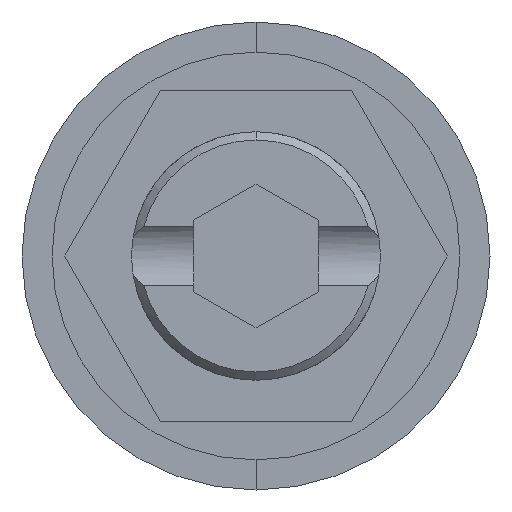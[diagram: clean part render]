
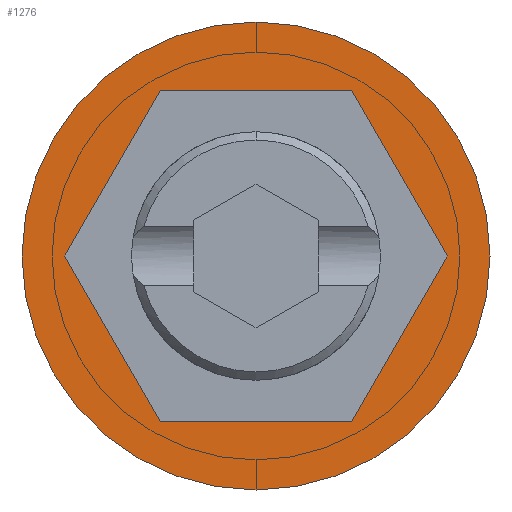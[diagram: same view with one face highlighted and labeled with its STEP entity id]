
A CAD part, front view. The second image highlights one B-rep face of the part: STEP entity #1276.
In plain terms, the highlighted planar face has unit normal (0, -1, 0).
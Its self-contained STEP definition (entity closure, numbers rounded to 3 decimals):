
#17 = EDGE_CURVE ( 'NONE', #1337, #1529, #1479, .T. ) ;
#31 = DIRECTION ( 'NONE',  ( 1., 0., 0. ) ) ;
#54 = CARTESIAN_POINT ( 'NONE',  ( 0., 0., -5.65 ) ) ;
#85 = FACE_BOUND ( 'NONE', #694, .T. ) ;
#97 = VECTOR ( 'NONE', #1817, 1000. ) ;
#116 = CARTESIAN_POINT ( 'NONE',  ( -2.309, 0., -4. ) ) ;
#156 = ORIENTED_EDGE ( 'NONE', *, *, #827, .F. ) ;
#223 = ORIENTED_EDGE ( 'NONE', *, *, #2057, .F. ) ;
#313 = ORIENTED_EDGE ( 'NONE', *, *, #1988, .T. ) ;
#324 = VECTOR ( 'NONE', #31, 1000. ) ;
#358 = VECTOR ( 'NONE', #1152, 1000. ) ;
#389 = VERTEX_POINT ( 'NONE', #1061 ) ;
#438 = LINE ( 'NONE', #1759, #1281 ) ;
#468 = ORIENTED_EDGE ( 'NONE', *, *, #1002, .F. ) ;
#487 = CARTESIAN_POINT ( 'NONE',  ( -2.309, 0., 4. ) ) ;
#590 = VERTEX_POINT ( 'NONE', #116 ) ;
#651 = EDGE_LOOP ( 'NONE', ( #1862, #313 ) ) ;
#679 = VECTOR ( 'NONE', #869, 1000. ) ;
#694 = EDGE_LOOP ( 'NONE', ( #223, #468, #1634, #987, #2116, #156 ) ) ;
#698 = DIRECTION ( 'NONE',  ( 0., -1., 0. ) ) ;
#721 = VERTEX_POINT ( 'NONE', #1781 ) ;
#769 = VECTOR ( 'NONE', #1496, 1000. ) ;
#774 = LINE ( 'NONE', #1368, #324 ) ;
#807 = AXIS2_PLACEMENT_3D ( 'NONE', #1876, #1963, #1967 ) ;
#823 = LINE ( 'NONE', #841, #358 ) ;
#827 = EDGE_CURVE ( 'NONE', #834, #389, #823, .T. ) ;
#833 = CARTESIAN_POINT ( 'NONE',  ( 2.309, 0., -4. ) ) ;
#834 = VERTEX_POINT ( 'NONE', #833 ) ;
#841 = CARTESIAN_POINT ( 'NONE',  ( 2.309, 0., -4. ) ) ;
#869 = DIRECTION ( 'NONE',  ( -0.5, 0., -0.866 ) ) ;
#873 = CARTESIAN_POINT ( 'NONE',  ( -2.309, 0., 4. ) ) ;
#918 = DIRECTION ( 'NONE',  ( 0.5, 0., -0.866 ) ) ;
#934 = CARTESIAN_POINT ( 'NONE',  ( 0., 0., 0. ) ) ;
#941 = LINE ( 'NONE', #1140, #97 ) ;
#964 = EDGE_CURVE ( 'NONE', #721, #1834, #941, .T. ) ;
#987 = ORIENTED_EDGE ( 'NONE', *, *, #964, .F. ) ;
#996 = LINE ( 'NONE', #873, #679 ) ;
#1002 = EDGE_CURVE ( 'NONE', #1601, #590, #438, .T. ) ;
#1061 = CARTESIAN_POINT ( 'NONE',  ( 4.619, 0., 0. ) ) ;
#1081 = DIRECTION ( 'NONE',  ( 0., -1., 0. ) ) ;
#1101 = DIRECTION ( 'NONE',  ( 0., 0., -1. ) ) ;
#1140 = CARTESIAN_POINT ( 'NONE',  ( 2.309, 0., 4. ) ) ;
#1152 = DIRECTION ( 'NONE',  ( 0.5, 0., 0.866 ) ) ;
#1276 = ADVANCED_FACE ( 'NONE', ( #85, #1477 ), #1493, .T. ) ;
#1281 = VECTOR ( 'NONE', #918, 1000. ) ;
#1337 = VERTEX_POINT ( 'NONE', #54 ) ;
#1343 = AXIS2_PLACEMENT_3D ( 'NONE', #934, #1081, #1101 ) ;
#1368 = CARTESIAN_POINT ( 'NONE',  ( -2.309, 0., -4. ) ) ;
#1477 = FACE_OUTER_BOUND ( 'NONE', #651, .T. ) ;
#1479 = CIRCLE ( 'NONE', #1343, 5.65 ) ;
#1493 = PLANE ( 'NONE',  #807 ) ;
#1496 = DIRECTION ( 'NONE',  ( -0.5, 0., 0.866 ) ) ;
#1502 = CARTESIAN_POINT ( 'NONE',  ( 4.619, 0., 0. ) ) ;
#1522 = CARTESIAN_POINT ( 'NONE',  ( -4.619, 0., 0. ) ) ;
#1529 = VERTEX_POINT ( 'NONE', #1663 ) ;
#1542 = AXIS2_PLACEMENT_3D ( 'NONE', #1706, #698, #1875 ) ;
#1601 = VERTEX_POINT ( 'NONE', #1522 ) ;
#1634 = ORIENTED_EDGE ( 'NONE', *, *, #2023, .F. ) ;
#1663 = CARTESIAN_POINT ( 'NONE',  ( 0., 0., 5.65 ) ) ;
#1706 = CARTESIAN_POINT ( 'NONE',  ( 0., 0., 0. ) ) ;
#1759 = CARTESIAN_POINT ( 'NONE',  ( -4.619, 0., 0. ) ) ;
#1781 = CARTESIAN_POINT ( 'NONE',  ( 2.309, 0., 4. ) ) ;
#1817 = DIRECTION ( 'NONE',  ( -1., 0., 0. ) ) ;
#1834 = VERTEX_POINT ( 'NONE', #487 ) ;
#1862 = ORIENTED_EDGE ( 'NONE', *, *, #17, .T. ) ;
#1867 = EDGE_CURVE ( 'NONE', #389, #721, #2099, .T. ) ;
#1875 = DIRECTION ( 'NONE',  ( 0., 0., -1. ) ) ;
#1876 = CARTESIAN_POINT ( 'NONE',  ( 0., 0., 0. ) ) ;
#1898 = CIRCLE ( 'NONE', #1542, 5.65 ) ;
#1963 = DIRECTION ( 'NONE',  ( 0., -1., 0. ) ) ;
#1967 = DIRECTION ( 'NONE',  ( 0., 0., -1. ) ) ;
#1988 = EDGE_CURVE ( 'NONE', #1529, #1337, #1898, .T. ) ;
#2023 = EDGE_CURVE ( 'NONE', #1834, #1601, #996, .T. ) ;
#2057 = EDGE_CURVE ( 'NONE', #590, #834, #774, .T. ) ;
#2099 = LINE ( 'NONE', #1502, #769 ) ;
#2116 = ORIENTED_EDGE ( 'NONE', *, *, #1867, .F. ) ;
